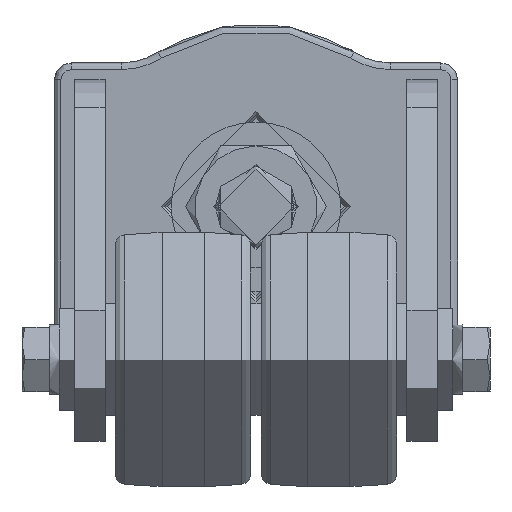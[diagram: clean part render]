
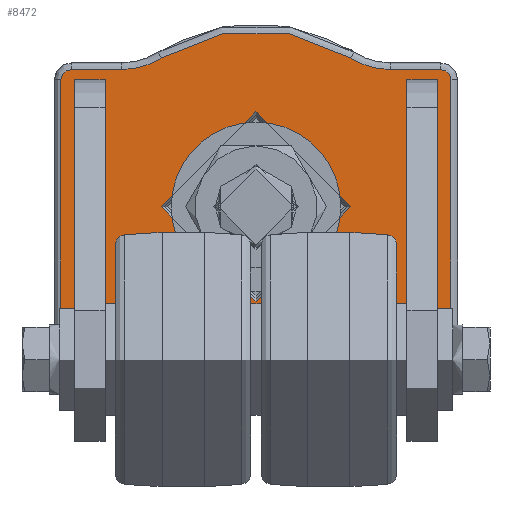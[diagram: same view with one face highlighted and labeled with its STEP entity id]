
A CAD part, front view. The second image highlights one B-rep face of the part: STEP entity #8472.
In plain terms, the highlighted planar face has unit normal (0, -1, 0).
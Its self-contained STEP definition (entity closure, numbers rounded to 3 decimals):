
#470=LINE('',#12929,#1227);
#756=LINE('',#14300,#1513);
#763=LINE('',#14331,#1520);
#769=LINE('',#14347,#1526);
#770=LINE('',#14349,#1527);
#776=LINE('',#14431,#1533);
#780=LINE('',#14441,#1537);
#784=LINE('',#14449,#1541);
#810=LINE('',#14595,#1567);
#811=LINE('',#14599,#1568);
#812=LINE('',#14603,#1569);
#813=LINE('',#14611,#1570);
#814=LINE('',#14615,#1571);
#815=LINE('',#14619,#1572);
#1227=VECTOR('',#9858,10.);
#1513=VECTOR('',#10338,10.);
#1520=VECTOR('',#10373,10.);
#1526=VECTOR('',#10391,10.);
#1527=VECTOR('',#10394,10.);
#1533=VECTOR('',#10518,10.);
#1537=VECTOR('',#10528,10.);
#1541=VECTOR('',#10540,10.);
#1567=VECTOR('',#10664,10.);
#1568=VECTOR('',#10667,10.);
#1569=VECTOR('',#10670,10.);
#1570=VECTOR('',#10677,10.);
#1571=VECTOR('',#10680,10.);
#1572=VECTOR('',#10683,10.);
#1908=PLANE('',#8996);
#2111=FACE_BOUND('',#3201,.T.);
#2112=FACE_BOUND('',#3202,.T.);
#2113=FACE_BOUND('',#3203,.T.);
#2659=FACE_OUTER_BOUND('',#3200,.T.);
#3200=EDGE_LOOP('',(#7460,#7461,#7462,#7463,#7464,#7465,#7466,#7467,#7468,
#7469,#7470,#7471,#7472,#7473,#7474,#7475));
#3201=EDGE_LOOP('',(#7476,#7477,#7478,#7479));
#3202=EDGE_LOOP('',(#7480,#7481,#7482,#7483));
#3203=EDGE_LOOP('',(#7484));
#3454=CIRCLE('',#8997,52.002);
#3455=CIRCLE('',#8998,22.);
#3456=CIRCLE('',#8999,3.);
#3457=CIRCLE('',#9000,3.);
#3458=CIRCLE('',#9001,22.);
#3459=CIRCLE('',#9002,52.002);
#3460=CIRCLE('',#9003,22.);
#3461=CIRCLE('',#9004,3.);
#3462=CIRCLE('',#9005,3.);
#3463=CIRCLE('',#9006,22.);
#3464=CIRCLE('',#9007,28.);
#3909=VERTEX_POINT('',#12925);
#3911=VERTEX_POINT('',#12928);
#4160=VERTEX_POINT('',#14296);
#4162=VERTEX_POINT('',#14299);
#4171=VERTEX_POINT('',#14327);
#4176=VERTEX_POINT('',#14345);
#4191=VERTEX_POINT('',#14427);
#4193=VERTEX_POINT('',#14430);
#4228=VERTEX_POINT('',#14589);
#4229=VERTEX_POINT('',#14590);
#4230=VERTEX_POINT('',#14592);
#4231=VERTEX_POINT('',#14594);
#4232=VERTEX_POINT('',#14596);
#4233=VERTEX_POINT('',#14598);
#4234=VERTEX_POINT('',#14600);
#4235=VERTEX_POINT('',#14602);
#4236=VERTEX_POINT('',#14604);
#4237=VERTEX_POINT('',#14606);
#4238=VERTEX_POINT('',#14608);
#4239=VERTEX_POINT('',#14610);
#4240=VERTEX_POINT('',#14612);
#4241=VERTEX_POINT('',#14614);
#4242=VERTEX_POINT('',#14616);
#4243=VERTEX_POINT('',#14618);
#4244=VERTEX_POINT('',#14621);
#4829=EDGE_CURVE('',#3911,#3909,#470,.T.);
#5202=EDGE_CURVE('',#4162,#4160,#756,.T.);
#5216=EDGE_CURVE('',#4171,#3911,#763,.T.);
#5224=EDGE_CURVE('',#3909,#4176,#769,.T.);
#5225=EDGE_CURVE('',#4176,#4171,#770,.T.);
#5263=EDGE_CURVE('',#4193,#4191,#776,.T.);
#5269=EDGE_CURVE('',#4160,#4193,#780,.T.);
#5273=EDGE_CURVE('',#4191,#4162,#784,.T.);
#5330=EDGE_CURVE('',#4228,#4229,#3454,.T.);
#5331=EDGE_CURVE('',#4230,#4228,#3455,.T.);
#5332=EDGE_CURVE('',#4231,#4230,#810,.T.);
#5333=EDGE_CURVE('',#4232,#4231,#3456,.T.);
#5334=EDGE_CURVE('',#4233,#4232,#811,.T.);
#5335=EDGE_CURVE('',#4234,#4233,#3457,.T.);
#5336=EDGE_CURVE('',#4235,#4234,#812,.T.);
#5337=EDGE_CURVE('',#4236,#4235,#3458,.T.);
#5338=EDGE_CURVE('',#4237,#4236,#3459,.T.);
#5339=EDGE_CURVE('',#4238,#4237,#3460,.T.);
#5340=EDGE_CURVE('',#4239,#4238,#813,.T.);
#5341=EDGE_CURVE('',#4240,#4239,#3461,.T.);
#5342=EDGE_CURVE('',#4241,#4240,#814,.T.);
#5343=EDGE_CURVE('',#4242,#4241,#3462,.T.);
#5344=EDGE_CURVE('',#4243,#4242,#815,.T.);
#5345=EDGE_CURVE('',#4229,#4243,#3463,.T.);
#5346=EDGE_CURVE('',#4244,#4244,#3464,.T.);
#7460=ORIENTED_EDGE('',*,*,#5330,.F.);
#7461=ORIENTED_EDGE('',*,*,#5331,.F.);
#7462=ORIENTED_EDGE('',*,*,#5332,.F.);
#7463=ORIENTED_EDGE('',*,*,#5333,.F.);
#7464=ORIENTED_EDGE('',*,*,#5334,.F.);
#7465=ORIENTED_EDGE('',*,*,#5335,.F.);
#7466=ORIENTED_EDGE('',*,*,#5336,.F.);
#7467=ORIENTED_EDGE('',*,*,#5337,.F.);
#7468=ORIENTED_EDGE('',*,*,#5338,.F.);
#7469=ORIENTED_EDGE('',*,*,#5339,.F.);
#7470=ORIENTED_EDGE('',*,*,#5340,.F.);
#7471=ORIENTED_EDGE('',*,*,#5341,.F.);
#7472=ORIENTED_EDGE('',*,*,#5342,.F.);
#7473=ORIENTED_EDGE('',*,*,#5343,.F.);
#7474=ORIENTED_EDGE('',*,*,#5344,.F.);
#7475=ORIENTED_EDGE('',*,*,#5345,.F.);
#7476=ORIENTED_EDGE('',*,*,#4829,.T.);
#7477=ORIENTED_EDGE('',*,*,#5224,.T.);
#7478=ORIENTED_EDGE('',*,*,#5225,.T.);
#7479=ORIENTED_EDGE('',*,*,#5216,.T.);
#7480=ORIENTED_EDGE('',*,*,#5263,.T.);
#7481=ORIENTED_EDGE('',*,*,#5273,.T.);
#7482=ORIENTED_EDGE('',*,*,#5202,.T.);
#7483=ORIENTED_EDGE('',*,*,#5269,.T.);
#7484=ORIENTED_EDGE('',*,*,#5346,.T.);
#8472=ADVANCED_FACE('',(#2659,#2111,#2112,#2113),#1908,.T.);
#8996=AXIS2_PLACEMENT_3D('',#14588,#10658,#10659);
#8997=AXIS2_PLACEMENT_3D('',#14591,#10660,#10661);
#8998=AXIS2_PLACEMENT_3D('',#14593,#10662,#10663);
#8999=AXIS2_PLACEMENT_3D('',#14597,#10665,#10666);
#9000=AXIS2_PLACEMENT_3D('',#14601,#10668,#10669);
#9001=AXIS2_PLACEMENT_3D('',#14605,#10671,#10672);
#9002=AXIS2_PLACEMENT_3D('',#14607,#10673,#10674);
#9003=AXIS2_PLACEMENT_3D('',#14609,#10675,#10676);
#9004=AXIS2_PLACEMENT_3D('',#14613,#10678,#10679);
#9005=AXIS2_PLACEMENT_3D('',#14617,#10681,#10682);
#9006=AXIS2_PLACEMENT_3D('',#14620,#10684,#10685);
#9007=AXIS2_PLACEMENT_3D('',#14622,#10686,#10687);
#9858=DIRECTION('',(0.,0.,1.));
#10338=DIRECTION('',(0.,0.,-1.));
#10373=DIRECTION('',(-1.,0.,0.));
#10391=DIRECTION('',(1.,0.,0.));
#10394=DIRECTION('',(0.,0.,-1.));
#10518=DIRECTION('',(0.,0.,1.));
#10528=DIRECTION('',(-1.,0.,0.));
#10540=DIRECTION('',(1.,0.,0.));
#10658=DIRECTION('center_axis',(0.,-1.,0.));
#10659=DIRECTION('ref_axis',(1.,0.,0.));
#10660=DIRECTION('center_axis',(0.,1.,0.));
#10661=DIRECTION('ref_axis',(0.,0.,
1.));
#10662=DIRECTION('center_axis',(0.,-1.,0.));
#10663=DIRECTION('ref_axis',(0.279,0.,-0.96));
#10664=DIRECTION('',(1.,0.,0.));
#10665=DIRECTION('center_axis',(0.,1.,0.));
#10666=DIRECTION('ref_axis',(-0.707,0.,0.707));
#10667=DIRECTION('',(0.,0.,1.));
#10668=DIRECTION('center_axis',(0.,1.,0.));
#10669=DIRECTION('ref_axis',(-0.707,0.,-0.707));
#10670=DIRECTION('',(-1.,0.,0.));
#10671=DIRECTION('center_axis',(0.,-1.,0.));
#10672=DIRECTION('ref_axis',(0.279,0.,0.96));
#10673=DIRECTION('center_axis',(0.,1.,0.));
#10674=DIRECTION('ref_axis',(0.,0.,-1.));
#10675=DIRECTION('center_axis',(0.,-1.,0.));
#10676=DIRECTION('ref_axis',(-0.279,0.,0.96));
#10677=DIRECTION('',(-1.,0.,0.));
#10678=DIRECTION('center_axis',(0.,1.,0.));
#10679=DIRECTION('ref_axis',(0.707,0.,-0.707));
#10680=DIRECTION('',(0.,0.,-1.));
#10681=DIRECTION('center_axis',(0.,1.,0.));
#10682=DIRECTION('ref_axis',(0.707,0.,0.707));
#10683=DIRECTION('',(1.,0.,0.));
#10684=DIRECTION('center_axis',(0.,-1.,0.));
#10685=DIRECTION('ref_axis',(-0.279,0.,-0.96));
#10686=DIRECTION('center_axis',(0.,1.,0.));
#10687=DIRECTION('ref_axis',(-1.,0.,0.));
#12925=CARTESIAN_POINT('',(-53.5,-11.5,37.5));
#12928=CARTESIAN_POINT('',(-53.5,-11.5,-37.5));
#12929=CARTESIAN_POINT('',(-53.5,-11.5,-9.01));
#14296=CARTESIAN_POINT('',(53.5,-11.5,-37.5));
#14299=CARTESIAN_POINT('',(53.5,-11.5,37.5));
#14300=CARTESIAN_POINT('',(53.5,-11.5,-9.01));
#14327=CARTESIAN_POINT('',(-44.5,-11.5,-37.5));
#14331=CARTESIAN_POINT('',(-44.,-11.5,-37.5));
#14345=CARTESIAN_POINT('',(-44.5,-11.5,37.5));
#14347=CARTESIAN_POINT('',(-44.,-11.5,37.5));
#14349=CARTESIAN_POINT('',(-44.5,-11.5,-9.01));
#14427=CARTESIAN_POINT('',(44.5,-11.5,37.5));
#14430=CARTESIAN_POINT('',(44.5,-11.5,-37.5));
#14431=CARTESIAN_POINT('',(44.5,-11.5,-9.01));
#14441=CARTESIAN_POINT('',(5.,-11.5,-37.5));
#14449=CARTESIAN_POINT('',(5.,-11.5,37.5));
#14588=CARTESIAN_POINT('Origin',(-39.,-11.5,0.));
#14589=CARTESIAN_POINT('',(-27.844,-11.5,43.919));
#14590=CARTESIAN_POINT('',(27.844,-11.5,43.919));
#14591=CARTESIAN_POINT('Origin',(0.,-11.5,
0.));
#14592=CARTESIAN_POINT('',(-39.624,-11.5,40.5));
#14593=CARTESIAN_POINT('Origin',(-39.624,-11.5,62.5));
#14594=CARTESIAN_POINT('',(-54.5,-11.5,40.5));
#14595=CARTESIAN_POINT('',(-39.312,-11.5,40.5));
#14596=CARTESIAN_POINT('',(-57.5,-11.5,37.5));
#14597=CARTESIAN_POINT('Origin',(-54.5,-11.5,37.5));
#14598=CARTESIAN_POINT('',(-57.5,-11.5,-37.5));
#14599=CARTESIAN_POINT('',(-57.5,-11.5,18.75));
#14600=CARTESIAN_POINT('',(-54.5,-11.5,-40.5));
#14601=CARTESIAN_POINT('Origin',(-54.5,-11.5,-37.5));
#14602=CARTESIAN_POINT('',(-39.624,-11.5,-40.5));
#14603=CARTESIAN_POINT('',(-46.75,-11.5,-40.5));
#14604=CARTESIAN_POINT('',(-27.844,-11.5,-43.919));
#14605=CARTESIAN_POINT('Origin',(-39.624,-11.5,-62.5));
#14606=CARTESIAN_POINT('',(27.844,-11.5,-43.919));
#14607=CARTESIAN_POINT('Origin',(0.,-11.5,
0.));
#14608=CARTESIAN_POINT('',(39.624,-11.5,-40.5));
#14609=CARTESIAN_POINT('Origin',(39.624,-11.5,-62.5));
#14610=CARTESIAN_POINT('',(54.5,-11.5,-40.5));
#14611=CARTESIAN_POINT('',(0.312,-11.5,-40.5));
#14612=CARTESIAN_POINT('',(57.5,-11.5,-37.5));
#14613=CARTESIAN_POINT('Origin',(54.5,-11.5,-37.5));
#14614=CARTESIAN_POINT('',(57.5,-11.5,37.5));
#14615=CARTESIAN_POINT('',(57.5,-11.5,-18.75));
#14616=CARTESIAN_POINT('',(54.5,-11.5,40.5));
#14617=CARTESIAN_POINT('Origin',(54.5,-11.5,37.5));
#14618=CARTESIAN_POINT('',(39.624,-11.5,40.5));
#14619=CARTESIAN_POINT('',(7.75,-11.5,40.5));
#14620=CARTESIAN_POINT('Origin',(39.624,-11.5,62.5));
#14621=CARTESIAN_POINT('',(28.,-11.5,0.));
#14622=CARTESIAN_POINT('Origin',(0.,-11.5,
0.));
